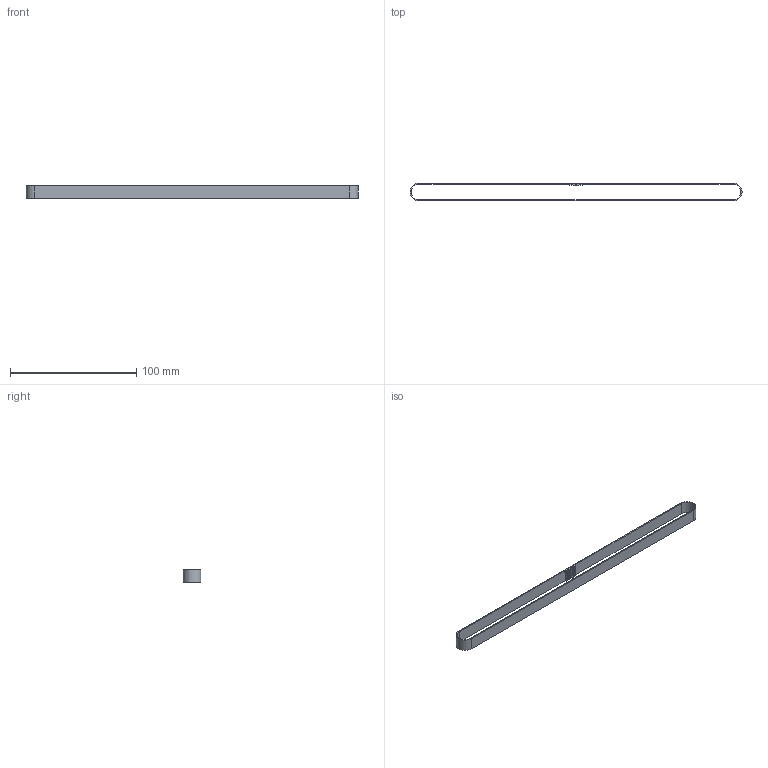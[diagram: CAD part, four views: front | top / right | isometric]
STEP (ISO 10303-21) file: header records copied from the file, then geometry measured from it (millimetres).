
FILE_DESCRIPTION (( 'STEP AP203' ), '1' );
FILE_NAME ('HTUN540S3M-100.step', '2026-06-21T21:25:05', ( 'EC2' ), ( 'Amazon.com' ), 'SwSTEP 2.0', 'SolidWorks 2016', '' );
FILE_SCHEMA (( 'CONFIG_CONTROL_DESIGN' ));
Length unit declared in the file: millimetre
Products named in the file (1): HTUN540S3M-100
Bounding box: 263.21 x 14.21 x 10 mm (x, y, z)
Volume: 4399 mm3; surface area: 11754.2 mm2
Topology: 1 solids, 1 shells, 46 faces, 132 edges, 88 vertices
Faces by surface type: plane 34, cylinder 12
Entity records: 1581 total; most frequent: CARTESIAN_POINT 267, ORIENTED_EDGE 264, DIRECTION 250, EDGE_CURVE 132, VECTOR 108, LINE 108, VERTEX_POINT 88, AXIS2_PLACEMENT_3D 71
